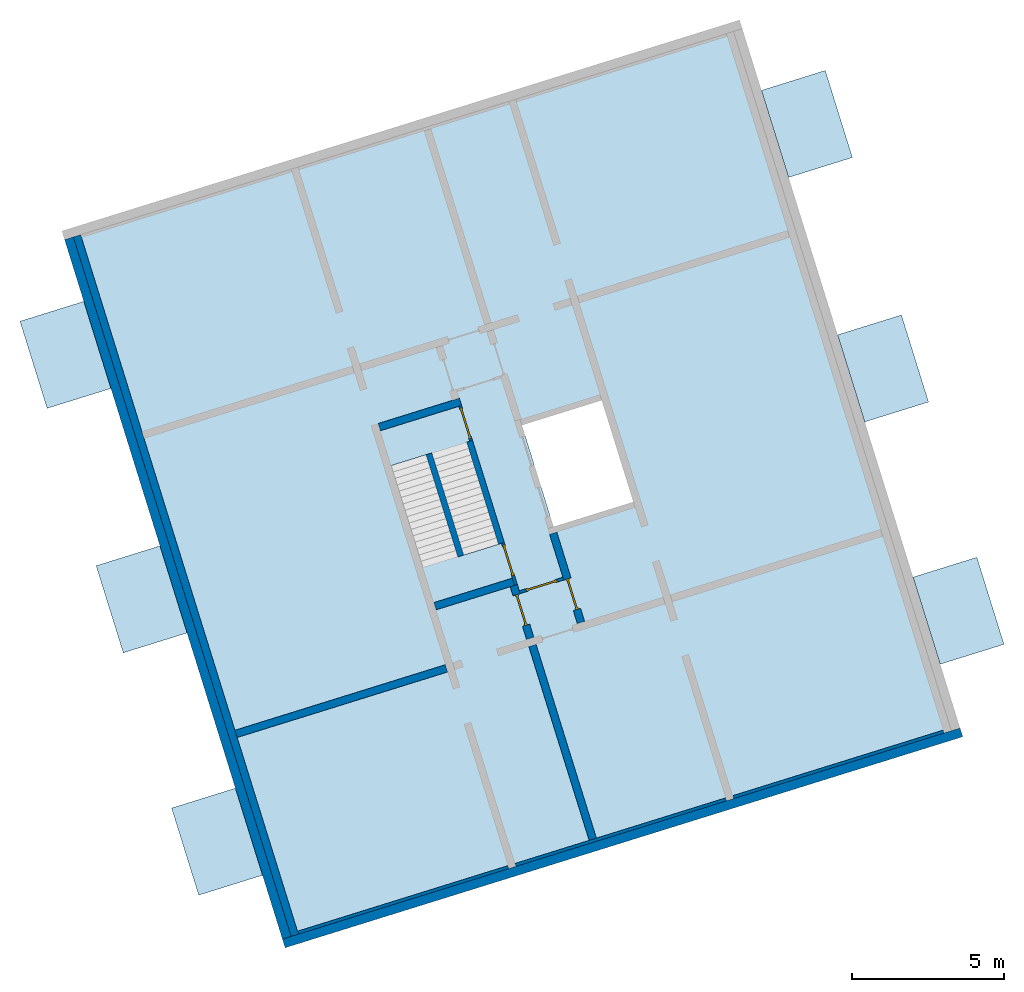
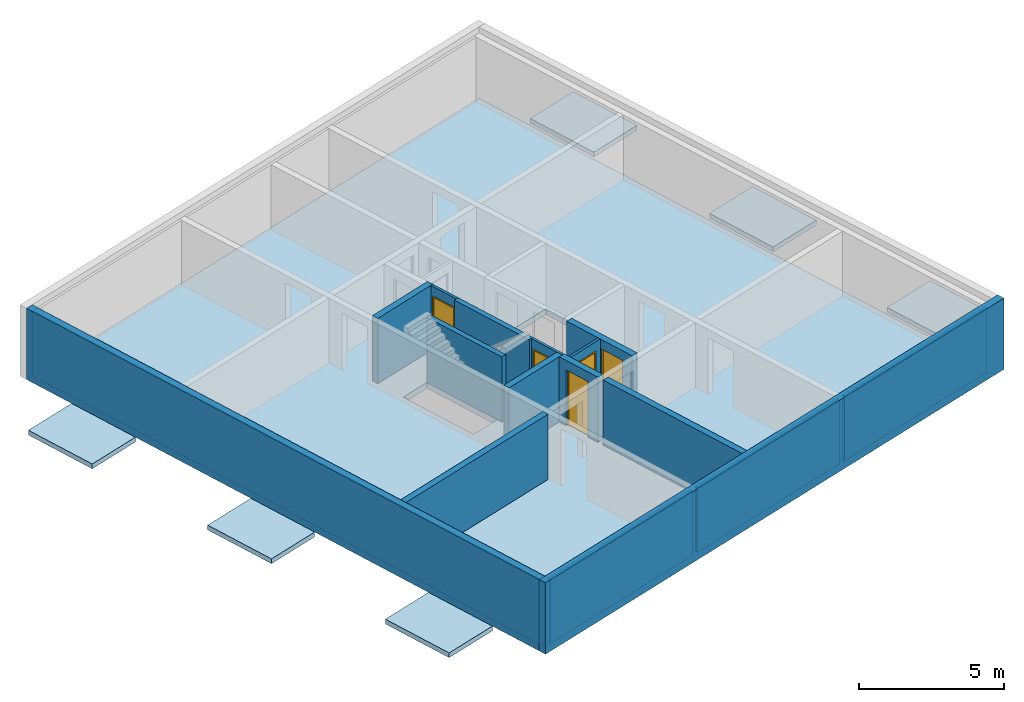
# One storey, part 1 of 4: 17 walls, 7 slabs, 5 doors, 7 openings.
"""IFC4 building model written with IfcOpenShell, lengths in metres."""

from ifc_helpers import new_model, entity, si_unit, converted_unit, direction, frame, origin, place, context, subcontext, project, spatial, indexed_curve, outline, extrude, polygons, source, transform, mapped, material, constituent, constituent_set, type_object, type_shapes, element, fill, save


model = new_model("IFC4")

# Units and contexts
model_context = context("Model", 3, precision=1e-05, world=origin(), true_north=direction((6.12323399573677e-17, 1.0)))
body_context = subcontext(model_context, "Body", "Model", "MODEL_VIEW")
ifc_project = project(units=[si_unit("LENGTHUNIT", "METRE"), si_unit("AREAUNIT", "SQUARE_METRE"), si_unit("VOLUMEUNIT", "CUBIC_METRE"), converted_unit("PLANEANGLEUNIT", "DEGREE", entity("IfcPlaneAngleMeasure", 0.0174532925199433), si_unit("PLANEANGLEUNIT", "RADIAN"), dimensions=[0, 0, 0, 0, 0, 0, 0])], contexts=[model_context])

# Site, building, storey
site_placement = place(None, frame((13.1347999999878, 11.9886000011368, 0.0), z_axis=(0.0, 0.0, 1.0), x_axis=(0.954770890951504, 0.297342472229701, 0.0)))
site = spatial("IfcSite", under=ifc_project, at=site_placement, Name="Schiehaven", CompositionType="ELEMENT")
building_placement = place(site_placement, origin())
building = spatial("IfcBuilding", under=site, at=building_placement, Name="VORM huis", CompositionType="ELEMENT")
storey_placement = place(building_placement, frame((0.0, 0.0, 21.9)))
storey = spatial("IfcBuildingStorey", under=building, at=storey_placement, Name="07 zevende verdieping", CompositionType="ELEMENT", Elevation=21.9)

# Slab, openings
ifc_material_1 = material(Name="beton_gewapend_ihw", Category="Miscellaneous")
slab_type_1 = type_object("IfcSlabType", Name="Floor:28_FL_skelet_vloer 250mm", PredefinedType="FLOOR", material=ifc_material_1)
slab_1_placement = place(storey_placement, origin())
slab_1 = element("IfcSlab", 1, at=slab_1_placement, inside=storey, type_object=slab_type_1, material=ifc_material_1, Name="Constructieve vloer", ObjectType="Vloer", PredefinedType="FLOOR", context=body_context, shape_type="SweptSolid", body=[
    extrude(outline(indexed_curve([(-12.0499999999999, -11.375), (12.0499999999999, -11.375), (12.0499999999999, 11.375), (-12.0499999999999, 11.375), (-12.0499999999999, -11.375)], self_intersect=False), holes=[indexed_curve([(1.75000000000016, 3.62500000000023), (1.75000000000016, 0.875000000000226), (-1.74999999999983, 0.875000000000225), (-1.74999999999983, 3.62500000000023), (1.75000000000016, 3.62500000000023)], self_intersect=False), indexed_curve([(-1.53999999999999, -2.22499999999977), (-1.53999999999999, -1.02499999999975), (1.76000000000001, -1.02499999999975), (1.76000000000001, -2.22499999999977), (-1.53999999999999, -2.22499999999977)], self_intersect=False), indexed_curve([(1.54000000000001, -3.62499999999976), (-1.75999999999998, -3.62499999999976), (-1.75999999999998, -2.42499999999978), (1.54000000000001, -2.42499999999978), (1.54000000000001, -3.62499999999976)], self_intersect=False)]), frame((68.7500000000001, 17.0499999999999, -0.249999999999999), z_axis=(0.0, 0.0, 1.0), x_axis=(0.0, -1.0, 0.0)), (0.0, 0.0, 1.0), 0.249999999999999),
])
opening_1_placement = place(slab_1_placement, origin())
element("IfcOpeningElement", 2, at=opening_1_placement, cuts=slab_1, Name="Constructieve vloer", PredefinedType="OPENING", context=body_context, shape_type="SweptSolid", body=[
    extrude(outline(indexed_curve([(-1.75, -1.375), (1.75, -1.375), (1.75, 1.37500000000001), (-1.75, 1.37500000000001), (-1.75, -1.375)], self_intersect=False)), frame((71.0, 17.0499999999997, -0.249999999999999), z_axis=(0.0, 0.0, 1.0), x_axis=(0.0, 1.0, 0.0)), (0.0, 0.0, 1.0), 0.249999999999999),
])
opening_2_placement = place(slab_1_placement, origin())
element("IfcOpeningElement", 3, at=opening_2_placement, cuts=slab_1, Name="Constructieve vloer", PredefinedType="OPENING", context=body_context, shape_type="SweptSolid", body=[
    extrude(outline(indexed_curve([(-1.65, -0.600000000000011), (1.65000000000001, -0.600000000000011), (1.65000000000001, 0.600000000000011), (-1.65, 0.600000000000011), (-1.65, -0.600000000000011)], self_intersect=False)), frame((67.1250000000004, 16.9399999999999, -0.249999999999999), z_axis=(0.0, 0.0, 1.0), x_axis=(0.0, -1.0, 0.0)), (0.0, 0.0, 1.0), 0.249999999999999),
])

# Slabs
ifc_material_2 = material(Name="beton_gewapend_prefab-element", Category="Miscellaneous")
slab_type_2 = type_object("IfcSlabType", Name="Floor:23_FL_skelet_balkon 200mm", PredefinedType="FLOOR", material=ifc_material_2)
slab_2_placement = place(storey_placement, origin())
element("IfcSlab", 4, at=slab_2_placement, inside=storey, type_object=slab_type_2, material=ifc_material_2, Name="Balkonvloer", ObjectType="Vloer", PredefinedType="FLOOR", context=body_context, shape_type="SweptSolid", body=[
    extrude(outline(indexed_curve([(-1.5, -1.1), (1.5, -1.1), (1.5, 1.1), (-1.5, 1.1), (-1.5, -1.1)], self_intersect=False)), frame((55.9750000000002, 25.475, 0.0), z_axis=(0.0, 0.0, -1.0), x_axis=(0.0, 1.0, 0.0)), (0.0, 0.0, 1.0), 0.199999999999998),
])
slab_3_placement = place(storey_placement, origin())
element("IfcSlab", 5, at=slab_3_placement, inside=storey, type_object=slab_type_2, material=ifc_material_2, Name="Balkonvloer", ObjectType="Vloer", PredefinedType="FLOOR", context=body_context, shape_type="SweptSolid", body=[
    extrude(outline(indexed_curve([(-1.50000000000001, -1.1), (1.49999999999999, -1.1), (1.50000000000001, 1.10000000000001), (-1.49999999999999, 1.1), (-1.50000000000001, -1.1)], self_intersect=False)), frame((55.9750000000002, 8.70000000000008, 0.0), z_axis=(0.0, 0.0, -1.0), x_axis=(0.0, 1.0, 0.0)), (0.0, 0.0, 1.0), 0.199999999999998),
])
slab_4_placement = place(storey_placement, origin())
element("IfcSlab", 6, at=slab_4_placement, inside=storey, type_object=slab_type_2, material=ifc_material_2, Name="Balkonvloer", ObjectType="Vloer", PredefinedType="FLOOR", context=body_context, shape_type="SweptSolid", body=[
    extrude(outline(indexed_curve([(-1.50000000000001, -1.1), (1.49999999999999, -1.1), (1.50000000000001, 1.1), (-1.49999999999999, 1.10000000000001), (-1.50000000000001, -1.1)], self_intersect=False)), frame((55.9750000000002, 17.0499999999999, 0.0), z_axis=(0.0, 0.0, -1.0), x_axis=(0.0, 1.0, 0.0)), (0.0, 0.0, 1.0), 0.199999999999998),
])
slab_5_placement = place(storey_placement, origin())
element("IfcSlab", 7, at=slab_5_placement, inside=storey, type_object=slab_type_2, material=ifc_material_2, Name="Balkonvloer", ObjectType="Vloer", PredefinedType="FLOOR", context=body_context, shape_type="SweptSolid", body=[
    extrude(outline(indexed_curve([(-1.50000000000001, -1.1), (1.49999999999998, -1.1), (1.50000000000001, 1.1), (-1.49999999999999, 1.1), (-1.50000000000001, -1.1)], self_intersect=False)), frame((81.5250000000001, 25.475, 0.0), z_axis=(0.0, 0.0, -1.0), x_axis=(0.0, 1.0, 0.0)), (0.0, 0.0, 1.0), 0.199999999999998),
])
slab_6_placement = place(storey_placement, origin())
element("IfcSlab", 8, at=slab_6_placement, inside=storey, type_object=slab_type_2, material=ifc_material_2, Name="Balkonvloer", ObjectType="Vloer", PredefinedType="FLOOR", context=body_context, shape_type="SweptSolid", body=[
    extrude(outline(indexed_curve([(-1.50000000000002, -1.1), (1.49999999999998, -1.1), (1.50000000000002, 1.10000000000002), (-1.49999999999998, 1.10000000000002), (-1.50000000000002, -1.1)], self_intersect=False)), frame((81.5250000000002, 8.70000000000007, 0.0), z_axis=(0.0, 0.0, -1.0), x_axis=(0.0, 1.0, 0.0)), (0.0, 0.0, 1.0), 0.199999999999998),
])
slab_7_placement = place(storey_placement, origin())
element("IfcSlab", 9, at=slab_7_placement, inside=storey, type_object=slab_type_2, material=ifc_material_2, Name="Balkonvloer", ObjectType="Vloer", PredefinedType="FLOOR", context=body_context, shape_type="SweptSolid", body=[
    extrude(outline(indexed_curve([(-1.5, -1.09999999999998), (1.5, -1.09999999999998), (1.5, 1.1), (-1.5, 1.1), (-1.5, -1.09999999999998)], self_intersect=False)), frame((81.5250000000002, 17.05, 0.0), z_axis=(0.0, 0.0, -1.0), x_axis=(0.0, 1.0, 0.0)), (0.0, 0.0, 1.0), 0.199999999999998),
])

# Walls
wall_type_1 = type_object("IfcWallType", Name="Basic Wall:28_WA_skelet_wand 250mm_gen", PredefinedType="STANDARD")
wall_1_placement = place(storey_placement, frame((57.5000000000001, 5.0, 0.0), z_axis=(0.0, 0.0, 1.0), x_axis=(0.0, 1.0, 0.0)))
element("IfcWall", 10, at=wall_1_placement, inside=storey, type_object=wall_type_1, material=ifc_material_1, Name="Constructieve wand", ObjectType="Wand", PredefinedType="NOTDEFINED", context=body_context, shape_type="SweptSolid", body=[
    extrude(outline(indexed_curve([(24.1, 0.124999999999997), (1.84706995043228e-16, 0.124999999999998), (-1.84706995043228e-16, -0.124999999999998), (24.1, -0.124999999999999), (24.1, 0.124999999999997)], self_intersect=False)), origin(), (0.0, 0.0, 1.0), 2.75),
])
ifc_material_3 = material(Name="ntb_ntb_ntb", Category="Miscellaneous")
wall_type_2 = type_object("IfcWallType", Name="Basic Wall:21_WA_gevel_binnenspouwwand 100mm_gen", PredefinedType="STANDARD")
wall_2_placement = place(storey_placement, frame((79.8750000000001, 5.04999999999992, 0.0), z_axis=(0.0, 0.0, 1.0), x_axis=(-1.0, 0.0, 0.0)))
element("IfcWall", 11, at=wall_2_placement, inside=storey, type_object=wall_type_2, material=ifc_material_3, Name="Binnenspouwblad", ObjectType="Wand", PredefinedType="NOTDEFINED", context=body_context, shape_type="SweptSolid", body=[
    extrude(outline(indexed_curve([(7.24999999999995, 0.0500000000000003), (-5.72474684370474e-18, 0.0500000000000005), (5.72474684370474e-18, -0.0500000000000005), (7.24999999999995, -0.0500000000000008), (7.24999999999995, 0.0500000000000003)], self_intersect=False)), origin(), (0.0, 0.0, 1.0), 2.75),
])
wall_3_placement = place(storey_placement, frame((65.1250000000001, 5.0499999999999, 0.0)))
element("IfcWall", 12, at=wall_3_placement, inside=storey, type_object=wall_type_2, material=ifc_material_3, Name="Binnenspouwblad", ObjectType="Wand", PredefinedType="NOTDEFINED", context=body_context, shape_type="SweptSolid", body=[
    extrude(outline(indexed_curve([(7.24999999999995, 0.0500000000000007), (1.48468503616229e-16, 0.0500000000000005), (-1.48468503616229e-16, -0.0500000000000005), (7.24999999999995, -0.0500000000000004), (7.24999999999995, 0.0500000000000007)], self_intersect=False)), origin(), (0.0, 0.0, 1.0), 2.75),
])
wall_4_placement = place(storey_placement, frame((64.875, 5.0499999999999, 0.0), z_axis=(0.0, 0.0, 1.0), x_axis=(-1.0, 0.0, 0.0)))
element("IfcWall", 13, at=wall_4_placement, inside=storey, type_object=wall_type_2, material=ifc_material_3, Name="Binnenspouwblad", ObjectType="Wand", PredefinedType="NOTDEFINED", context=body_context, shape_type="SweptSolid", body=[
    extrude(outline(indexed_curve([(7.24999999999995, 0.0500000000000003), (-5.72474684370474e-18, 0.0500000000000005), (5.72474684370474e-18, -0.0500000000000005), (7.24999999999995, -0.0500000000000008), (7.24999999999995, 0.0500000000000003)], self_intersect=False)), origin(), (0.0, 0.0, 1.0), 2.75),
])
wall_type_3 = type_object("IfcWallType", Name="Basic Wall: 300mm_gen", PredefinedType="STANDARD")
wall_5_placement = place(storey_placement, frame((57.075, 4.84999999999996, 0.0)))
element("IfcWall", 14, at=wall_5_placement, inside=storey, type_object=wall_type_3, material=ifc_material_3, Name="Gevelwand", ObjectType="Wand", PredefinedType="NOTDEFINED", context=body_context, shape_type="SweptSolid", body=[
    extrude(outline(indexed_curve([(23.35, 0.150000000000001), (-2.29983128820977e-16, 0.150000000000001), (2.29983128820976e-16, -0.15), (23.35, -0.15), (23.35, 0.150000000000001)], self_intersect=False)), origin(), (0.0, 0.0, 1.0), 3.0),
])
wall_6_placement = place(storey_placement, frame((57.2250000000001, 29.0999999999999, 0.0), z_axis=(0.0, 0.0, 1.0), x_axis=(0.0, -1.0, 0.0)))
element("IfcWall", 15, at=wall_6_placement, inside=storey, type_object=wall_type_3, material=ifc_material_3, Name="Gevelwand", ObjectType="Wand", PredefinedType="NOTDEFINED", context=body_context, shape_type="SweptSolid", body=[
    extrude(outline(indexed_curve([(24.1, 0.149999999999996), (-2.43297068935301e-16, 0.150000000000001), (2.43297068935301e-16, -0.150000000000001), (24.1, -0.150000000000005), (24.1, 0.149999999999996)], self_intersect=False)), origin(), (0.0, 0.0, 1.0), 3.0),
])
wall_type_4 = type_object("IfcWallType", Name="Basic Wall:28_WA_skelet_wand 200mm_gen", PredefinedType="STANDARD")
wall_7_placement = place(storey_placement, frame((67.8250000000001, 15.2899999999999, 0.0), z_axis=(0.0, 0.0, 1.0), x_axis=(0.0, 1.0, 0.0)))
element("IfcWall", 16, at=wall_7_placement, inside=storey, type_object=wall_type_4, material=ifc_material_2, Name="Constructieve wand", ObjectType="Wand", PredefinedType="NOTDEFINED", context=body_context, shape_type="SweptSolid", body=[
    extrude(outline(indexed_curve([(3.52, 0.100000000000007), (1.31886131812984e-16, 0.100000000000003), (-1.31886131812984e-16, -0.100000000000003), (3.52, -0.0999999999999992), (3.52, 0.100000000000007)], self_intersect=False)), origin(), (0.0, 0.0, 1.0), 2.75),
])
wall_8_placement = place(storey_placement, frame((66.4250000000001, 15.2899999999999, 0.0), z_axis=(0.0, 0.0, 1.0), x_axis=(0.0, 1.0, 0.0)))
element("IfcWall", 17, at=wall_8_placement, inside=storey, type_object=wall_type_4, material=ifc_material_2, Name="Constructieve wand", ObjectType="Wand", PredefinedType="NOTDEFINED", context=body_context, shape_type="SweptSolid", body=[
    extrude(outline(indexed_curve([(3.52, 0.100000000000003), (2.54939214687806e-16, 0.100000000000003), (-2.54939214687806e-16, -0.100000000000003), (3.52, -0.100000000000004), (3.52, 0.100000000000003)], self_intersect=False)), origin(), (0.0, 0.0, 1.0), 2.75),
])
wall_type_5 = type_object("IfcWallType", Name="Basic Wall:22_WA_afbouw_binnenwand 250mm_gen", PredefinedType="STANDARD")
wall_9_placement = place(storey_placement, frame((65.1250000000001, 20.1349999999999, 0.0)))
element("IfcWall", 18, at=wall_9_placement, inside=storey, type_object=wall_type_5, material=ifc_material_3, Name="Binnenwand", ObjectType="Wand", PredefinedType="NOTDEFINED", context=body_context, shape_type="SweptSolid", body=[
    extrude(outline(indexed_curve([(2.8, 0.125000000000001), (2.00742282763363e-17, 0.125000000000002), (-2.00742282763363e-17, -0.125000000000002), (2.8, -0.125000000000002), (2.8, 0.125000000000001)], self_intersect=False)), origin(), (0.0, 0.0, 1.0), 2.75),
])
wall_10_placement = place(storey_placement, frame((64.8750000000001, 11.8999999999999, 0.0), z_axis=(0.0, 0.0, 1.0), x_axis=(-1.0, 0.0, 0.0)))
element("IfcWall", 19, at=wall_10_placement, inside=storey, type_object=wall_type_5, material=ifc_material_3, Name="Binnenwand", ObjectType="Wand", PredefinedType="NOTDEFINED", context=body_context, shape_type="SweptSolid", body=[
    extrude(outline(indexed_curve([(7.24999999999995, 0.125000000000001), (-2.8436708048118e-16, 0.125), (2.8436708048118e-16, -0.125), (7.24999999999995, -0.124999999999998), (7.24999999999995, 0.125000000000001)], self_intersect=False)), origin(), (0.0, 0.0, 1.0), 2.75),
])
wall_11_placement = place(storey_placement, frame((67.8, 11.7749999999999, 0.0), z_axis=(0.0, 0.0, 1.0), x_axis=(0.0, -1.0, 0.0)))
element("IfcWall", 20, at=wall_11_placement, inside=storey, type_object=wall_type_5, material=ifc_material_3, Name="Binnenwand", ObjectType="Wand", PredefinedType="NOTDEFINED", context=body_context, shape_type="SweptSolid", body=[
    extrude(outline(indexed_curve([(6.67500000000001, 0.124999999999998), (-1.7762946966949e-16, 0.124999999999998), (1.7762946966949e-16, -0.124999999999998), (6.67500000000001, -0.124999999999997), (6.67500000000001, 0.124999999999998)], self_intersect=False)), origin(), (0.0, 0.0, 1.0), 2.75),
])

# Wall, opening, door
wall_12_placement = place(storey_placement, frame((67.8000000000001, 13.8399999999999, 0.0), z_axis=(0.0, 0.0, 1.0), x_axis=(0.0, -1.0, 0.0)))
wall_12 = element("IfcWall", 21, at=wall_12_placement, inside=storey, type_object=wall_type_5, material=ifc_material_3, Name="Binnenwand", ObjectType="Wand", PredefinedType="NOTDEFINED", context=body_context, shape_type="Tessellation", body=[
    polygons([(0.0, -0.125000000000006, 0.0), (0.315000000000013, -0.125000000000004, 0.0), (0.315000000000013, -0.125000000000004, 2.34999999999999), (1.36500000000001, -0.125000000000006, 2.34999999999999), (1.36500000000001, -0.125000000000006, 0.0), (1.81499999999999, -0.125000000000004, 0.0), (1.81499999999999, -0.125000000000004, 2.75), (0.0, -0.125000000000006, 2.75), (0.315000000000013, 0.124999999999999, 2.34999999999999), (0.315000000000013, 0.124999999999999, 0.0), (0.215000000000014, 0.124999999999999, 0.0), (-2.16573425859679e-15, 0.124999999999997, 0.0), (-2.16573425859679e-15, 0.124999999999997, 2.75), (0.215000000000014, 0.124999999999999, 2.75), (0.315000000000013, 0.124999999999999, 2.75), (1.81499999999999, 0.125, 2.75), (1.81499999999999, 0.125, 0.0), (1.36500000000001, 0.124999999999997, 0.0), (1.36500000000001, 0.124999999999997, 2.34999999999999), (0.0, 0.0250000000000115, 0.0), (0.0, 0.0250000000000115, 2.75)], [[[1, 2, 3, 4, 5, 6, 7, 8]], [[9, 10, 11, 12, 13, 14, 15, 16, 17, 18, 19]], [[12, 11, 10, 2, 1, 20]], [[7, 6, 17, 16]], [[8, 7, 16, 15, 14, 13, 21]], [[5, 4, 19, 18]], [[3, 2, 10, 9]], [[4, 3, 9, 19]], [[1, 8, 21, 13, 12, 20]], [[18, 17, 6, 5]]], closed=True),
])
opening_3_placement = place(wall_12_placement, frame((0.315000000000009, -0.125000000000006, 0.0)))
opening_3 = element("IfcOpeningElement", 22, at=opening_3_placement, cuts=wall_12, Name="Woningtoegangsdeur", PredefinedType="OPENING", context=body_context, shape_type="SweptSolid", body=[
    extrude(outline(indexed_curve([(2.34999999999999, 1.05), (0.0, 1.05), (0.0, 1.35358391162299e-15), (2.34999999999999, 1.35358391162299e-15), (2.34999999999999, 1.05)], self_intersect=False)), frame((0.0, 0.0, 0.0), z_axis=(0.0, 1.0, 0.0), x_axis=(0.0, 0.0, 1.0)), (0.0, 0.0, 1.0), 0.25),
])
ifc_material_4 = material(Name="PD_a_binnenwandopeningen", Category="Miscellaneous")
ifc_constituent_1 = constituent(ifc_material_4, Name="PD_a_binnenwandopeningen", Category="Miscellaneous")
ifc_material_5 = material(Name="metaal_aluminium_ntb", Category="Miscellaneous")
ifc_constituent_2 = constituent(ifc_material_5, Name="metaal_aluminium_ntb", Category="Miscellaneous")
ifc_constituent_set_1 = constituent_set(constituents=[ifc_constituent_1, ifc_constituent_2])
ifc_constituent_3 = constituent(ifc_material_4, Name="PD_a_binnenwandopeningen", Category="Miscellaneous")
ifc_constituent_4 = constituent(ifc_material_5, Name="Panel", Category="Miscellaneous")
ifc_constituent_set_2 = constituent_set(constituents=[ifc_constituent_3, ifc_constituent_4])
door_type_1 = type_object("IfcDoorType", Name="32_DO_binnendeur enkel:woningtoegangsdeur", OperationType="REVOLVING", PredefinedType="DOOR", material=ifc_constituent_set_2)
shared_shape_1 = source(origin(), body_context, "Body", "SweptSolid", [
    extrude(outline(indexed_curve([(-1.16249999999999, -0.525000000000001), (1.18749999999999, -0.525), (1.18749999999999, 0.525000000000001), (-1.16249999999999, 0.525000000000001), (-1.16249999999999, 0.475), (1.13749999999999, 0.475), (1.13749999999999, -0.475), (-1.16249999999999, -0.475), (-1.16249999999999, -0.525000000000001)], self_intersect=False)), frame((0.525000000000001, 0.0749999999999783, 1.16249999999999), z_axis=(0.0, 1.0, 0.0), x_axis=(0.0, 0.0, 1.0)), (0.0, 0.0, 1.0), 0.1),
    extrude(outline(indexed_curve([(-0.025, -0.475), (0.025, -0.475), (0.025, 0.475), (-0.025, 0.475), (-0.025, -0.475)], self_intersect=False)), frame((0.525000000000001, 0.12499999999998, 0.0), z_axis=(0.0, 0.0, 1.0), x_axis=(0.0, 1.0, 0.0)), (0.0, 0.0, 1.0), 2.29999999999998),
])
type_shapes(door_type_1, [shared_shape_1])
door_1_placement = place(opening_3_placement, origin())
door_1 = element("IfcDoor", 23, at=door_1_placement, inside=storey, type_object=door_type_1, material=ifc_constituent_set_1, Name="Woningtoegangsdeur", ObjectType="Deur", OperationType="REVOLVING", OverallHeight=2.34999999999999, OverallWidth=1.05, PredefinedType="DOOR", context=body_context, shape_type="MappedRepresentation", body=[
    mapped(shared_shape_1, transform((0.0, 0.0, 0.0), scale=1.0)),
])
fill(opening_3, door_1)

wall_13_placement = place(storey_placement, frame((69.5500000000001, 15.0999999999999, 0.0), z_axis=(0.0, 0.0, 1.0), x_axis=(0.0, -1.0, 0.0)))
wall_13 = element("IfcWall", 24, at=wall_13_placement, inside=storey, type_object=wall_type_5, material=ifc_material_3, Name="Binnenwand", ObjectType="Wand", PredefinedType="NOTDEFINED", context=body_context, shape_type="Tessellation", body=[
    polygons([(2.62500000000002, -0.125000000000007, 2.34999999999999), (2.62500000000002, -0.125000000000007, 0.0), (3.07499999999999, -0.125000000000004, 0.0), (3.07499999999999, -0.125000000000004, 2.75), (1.575, -0.125000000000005, 2.75), (1.475, -0.125000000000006, 2.75), (0.0, -0.125000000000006, 2.75), (0.0, -0.125000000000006, 0.0), (1.475, -0.125000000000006, 0.0), (1.57500000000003, -0.125000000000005, 0.0), (1.57500000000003, -0.125000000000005, 2.34999999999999), (3.075, 0.124999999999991, 0.0), (2.62500000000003, 0.124999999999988, 0.0), (2.62500000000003, 0.124999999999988, 2.34999999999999), (1.57500000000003, 0.124999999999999, 2.34999999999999), (1.57500000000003, 0.124999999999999, 0.0), (2.16573425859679e-15, 0.124999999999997, 0.0), (2.16573425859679e-15, 0.124999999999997, 2.75), (3.075, 0.124999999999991, 2.75)], [[[1, 2, 3, 4, 5, 6, 7, 8, 9, 10, 11]], [[12, 13, 14, 15, 16, 17, 18, 19]], [[10, 9, 8, 17, 16]], [[4, 3, 12, 19]], [[7, 6, 5, 4, 19, 18]], [[8, 7, 18, 17]], [[16, 15, 11, 10]], [[14, 13, 2, 1]], [[15, 14, 1, 11]], [[3, 2, 13, 12]]], closed=True),
])
opening_4_placement = place(wall_13_placement, frame((2.62500000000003, 0.124999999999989, 0.0)))
opening_4 = element("IfcOpeningElement", 25, at=opening_4_placement, cuts=wall_13, Name="Woningtoegangsdeur", PredefinedType="OPENING", context=body_context, shape_type="SweptSolid", body=[
    extrude(outline(indexed_curve([(2.34999999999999, 1.05), (0.0, 1.05), (0.0, 1.08286712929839e-15), (2.34999999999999, 1.08286712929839e-15), (2.34999999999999, 1.05)], self_intersect=False)), frame((0.0, 0.0, 0.0), z_axis=(0.0, -1.0, 0.0), x_axis=(0.0, 0.0, 1.0)), (0.0, 0.0, 1.0), 0.25),
])
ifc_constituent_5 = constituent(ifc_material_4, Name="PD_a_binnenwandopeningen", Category="Miscellaneous")
ifc_constituent_6 = constituent(ifc_material_5, Name="metaal_aluminium_ntb", Category="Miscellaneous")
ifc_constituent_set_3 = constituent_set(constituents=[ifc_constituent_5, ifc_constituent_6])
door_2_placement = place(opening_4_placement, frame((0.0, 0.0, 0.0), z_axis=(0.0, 0.0, 1.0), x_axis=(-1.0, 0.0, 0.0)))
door_2 = element("IfcDoor", 26, at=door_2_placement, inside=storey, type_object=door_type_1, material=ifc_constituent_set_3, Name="Woningtoegangsdeur", ObjectType="Deur", OperationType="REVOLVING", OverallHeight=2.34999999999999, OverallWidth=1.05, PredefinedType="DOOR", context=body_context, shape_type="MappedRepresentation", body=[
    mapped(shared_shape_1, transform((0.0, 0.0, 0.0), scale=1.0)),
])
fill(opening_4, door_2)

# Wall
wall_14_placement = place(storey_placement, frame((65.1250000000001, 13.9649999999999, 0.0)))
element("IfcWall", 27, at=wall_14_placement, inside=storey, type_object=wall_type_5, material=ifc_material_3, Name="Binnenwand", ObjectType="Wand", PredefinedType="NOTDEFINED", context=body_context, shape_type="SweptSolid", body=[
    extrude(outline(indexed_curve([(2.70000000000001, 0.125), (-1.06625112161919e-16, 0.125), (1.06625112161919e-16, -0.125), (2.70000000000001, -0.125), (2.70000000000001, 0.125)], self_intersect=False)), origin(), (0.0, 0.0, 1.0), 2.75),
])

# Wall, opening, door
wall_type_6 = type_object("IfcWallType", Name="Basic Wall:22_WA_afbouw_binnenwand 100mm_gen", PredefinedType="STANDARD")
wall_15_placement = place(storey_placement, frame((67.8750000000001, 13.8399999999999, 0.0), z_axis=(0.0, 0.0, 1.0), x_axis=(0.0, 1.0, 0.0)))
wall_15 = element("IfcWall", 28, at=wall_15_placement, inside=storey, type_object=wall_type_6, material=ifc_material_3, Name="Binnenwand", ObjectType="Wand", PredefinedType="NOTDEFINED", context=body_context, shape_type="Tessellation", body=[
    polygons([(1.44999999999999, -0.050000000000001, 0.0), (1.44999999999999, -0.050000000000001, 2.75), (0.0, -0.0499999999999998, 2.75), (0.0, -0.0499999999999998, 0.0), (0.324999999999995, -0.0500000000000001, 0.0), (0.324999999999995, -0.0500000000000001, 2.34999999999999), (1.375, -0.0500000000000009, 2.34999999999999), (1.375, -0.0500000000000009, 0.0), (1.44999999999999, 0.0499999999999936, 2.75), (1.44999999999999, 0.0499999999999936, 0.0), (1.375, 0.0499999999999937, 0.0), (1.375, 0.0499999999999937, 2.34999999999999), (0.324999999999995, 0.0499999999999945, 2.34999999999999), (0.324999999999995, 0.0499999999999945, 0.0), (0.249999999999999, 0.0499999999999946, 0.0), (0.0, 0.0499999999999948, 0.0), (0.0, 0.0499999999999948, 2.75), (0.249999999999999, 0.0499999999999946, 2.75)], [[[1, 2, 3, 4, 5, 6, 7, 8]], [[9, 10, 11, 12, 13, 14, 15, 16, 17, 18]], [[4, 16, 15, 14, 5]], [[2, 1, 10, 9]], [[3, 2, 9, 18, 17]], [[13, 6, 5, 14]], [[7, 12, 11, 8]], [[6, 13, 12, 7]], [[4, 3, 17, 16]], [[10, 1, 8, 11]]], closed=True),
])
opening_5_placement = place(wall_15_placement, frame((0.324999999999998, -0.0500000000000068, 0.0)))
opening_5 = element("IfcOpeningElement", 29, at=opening_5_placement, cuts=wall_15, Name="Vluchtdeur", PredefinedType="OPENING", context=body_context, shape_type="SweptSolid", body=[
    extrude(outline(indexed_curve([(2.34999999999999, 1.35358391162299e-15), (2.34999999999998, 1.05), (0.0, 1.05), (2.16573425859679e-15, 1.35358391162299e-15), (2.34999999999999, 1.35358391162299e-15)], self_intersect=False)), frame((0.0, 0.0, 0.0), z_axis=(0.0, 1.0, 0.0), x_axis=(0.0, 0.0, 1.0)), (0.0, 0.0, 1.0), 0.1),
])
ifc_constituent_7 = constituent(ifc_material_4, Name="PD_a_binnenwandopeningen", Category="Miscellaneous")
ifc_constituent_8 = constituent(ifc_material_5, Name="metaal_aluminium_ntb", Category="Miscellaneous")
ifc_constituent_set_4 = constituent_set(constituents=[ifc_constituent_7, ifc_constituent_8])
ifc_constituent_9 = constituent(ifc_material_4, Name="PD_a_binnenwandopeningen", Category="Miscellaneous")
ifc_constituent_10 = constituent(ifc_material_5, Name="Panel", Category="Miscellaneous")
ifc_constituent_set_5 = constituent_set(constituents=[ifc_constituent_9, ifc_constituent_10])
door_type_2 = type_object("IfcDoorType", Name="32_DO_binnendeur enkel:binnendeur zelfsluitend 30min", OperationType="NOTDEFINED", PredefinedType="DOOR", material=ifc_constituent_set_5)
shared_shape_2 = source(origin(), body_context, "Body", "SweptSolid", [
    extrude(outline(indexed_curve([(0.475, -1.16249999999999), (0.525, -1.16249999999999), (0.525, 1.18749999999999), (-0.525, 1.18749999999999), (-0.525, -1.16249999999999), (-0.475, -1.16249999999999), (-0.475, 1.13749999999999), (0.475, 1.13749999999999), (0.475, -1.16249999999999)], self_intersect=False)), frame((0.525000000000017, 0.100000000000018, 1.16249999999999), z_axis=(0.0, -1.0, 0.0), x_axis=(1.0, 0.0, 0.0)), (0.0, 0.0, 1.0), 0.1),
    extrude(outline(indexed_curve([(-0.475, -0.025), (0.475, -0.025), (0.475, 0.025), (-0.475, 0.025), (-0.475, -0.025)], self_intersect=False)), frame((0.525000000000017, 0.0499999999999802, 0.0)), (0.0, 0.0, 1.0), 2.29999999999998),
])
type_shapes(door_type_2, [shared_shape_2])
door_3_placement = place(opening_5_placement, origin())
door_3 = element("IfcDoor", 30, at=door_3_placement, inside=storey, type_object=door_type_2, material=ifc_constituent_set_4, Name="Vluchtdeur", ObjectType="Deur", OperationType="NOTDEFINED", OverallHeight=2.34999999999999, OverallWidth=1.05, PredefinedType="DOOR", context=body_context, shape_type="MappedRepresentation", body=[
    mapped(shared_shape_2, transform((0.0, 0.0, 0.0), scale=1.0)),
])
fill(opening_5, door_3)

wall_16_placement = place(storey_placement, frame((67.8750000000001, 20.0099999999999, 0.0), z_axis=(0.0, 0.0, 1.0), x_axis=(0.0, -1.0, 0.0)))
wall_16 = element("IfcWall", 31, at=wall_16_placement, inside=storey, type_object=wall_type_6, material=ifc_material_3, Name="Binnenwand", ObjectType="Wand", PredefinedType="NOTDEFINED", context=body_context, shape_type="Tessellation", body=[
    polygons([(1.2, -0.0500000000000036, 0.0), (1.2, -0.0500000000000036, 2.75), (0.0, -0.0500000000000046, 2.75), (0.0, -0.0500000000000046, 0.0), (0.0750000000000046, -0.0500000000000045, 0.0), (0.0750000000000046, -0.0500000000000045, 2.34999999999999), (1.125, -0.0500000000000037, 2.34999999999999), (1.125, -0.0500000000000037, 0.0), (1.2, 0.049999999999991, 2.75), (1.2, 0.049999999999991, 0.0), (1.125, 0.0499999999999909, 0.0), (1.125, 0.0499999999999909, 2.34999999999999), (0.0750000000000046, 0.0499999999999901, 2.34999999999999), (0.0750000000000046, 0.0499999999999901, 0.0), (0.0, 0.04999999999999, 0.0), (0.0, 0.04999999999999, 2.75)], [[[1, 2, 3, 4, 5, 6, 7, 8]], [[9, 10, 11, 12, 13, 14, 15, 16]], [[4, 15, 14, 5]], [[2, 1, 10, 9]], [[3, 2, 9, 16]], [[4, 3, 16, 15]], [[13, 6, 5, 14]], [[6, 13, 12, 7]], [[7, 12, 11, 8]], [[10, 1, 8, 11]]], closed=True),
])
opening_6_placement = place(wall_16_placement, frame((1.12500000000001, 0.0499999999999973, 0.0)))
opening_6 = element("IfcOpeningElement", 32, at=opening_6_placement, cuts=wall_16, Name="Vluchtdeur", PredefinedType="OPENING", context=body_context, shape_type="SweptSolid", body=[
    extrude(outline(indexed_curve([(2.34999999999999, 0.0), (2.34999999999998, 1.05), (0.0, 1.05), (2.16573425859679e-15, 0.0), (2.34999999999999, 0.0)], self_intersect=False)), frame((0.0, 0.0, 0.0), z_axis=(0.0, -1.0, 0.0), x_axis=(0.0, 0.0, 1.0)), (0.0, 0.0, 1.0), 0.1),
])
ifc_constituent_11 = constituent(ifc_material_4, Name="PD_a_binnenwandopeningen", Category="Miscellaneous")
ifc_constituent_12 = constituent(ifc_material_5, Name="metaal_aluminium_ntb", Category="Miscellaneous")
ifc_constituent_set_6 = constituent_set(constituents=[ifc_constituent_11, ifc_constituent_12])
door_4_placement = place(opening_6_placement, frame((0.0, 0.0, 0.0), z_axis=(0.0, 0.0, 1.0), x_axis=(-1.0, 0.0, 0.0)))
door_4 = element("IfcDoor", 33, at=door_4_placement, inside=storey, type_object=door_type_2, material=ifc_constituent_set_6, Name="Vluchtdeur", ObjectType="Deur", OperationType="NOTDEFINED", OverallHeight=2.34999999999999, OverallWidth=1.05, PredefinedType="DOOR", context=body_context, shape_type="MappedRepresentation", body=[
    mapped(shared_shape_2, transform((0.0, 0.0, 0.0), scale=1.0)),
])
fill(opening_6, door_4)

wall_17_placement = place(storey_placement, frame((67.9250000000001, 13.5749999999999, 0.0)))
wall_17 = element("IfcWall", 34, at=wall_17_placement, inside=storey, type_object=wall_type_6, material=ifc_material_3, Name="Binnenwand", ObjectType="Wand", PredefinedType="NOTDEFINED", context=body_context, shape_type="Tessellation", body=[
    polygons([(1.5, -0.0499999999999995, 2.75), (-1.73931956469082e-15, -0.0499999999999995, 2.75), (-1.73931956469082e-15, -0.0499999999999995, 2.34999999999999), (-1.73931956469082e-15, -0.0499999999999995, 0.0), (0.224999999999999, -0.0499999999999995, 0.0), (0.224999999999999, -0.0499999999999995, 2.34999999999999), (1.275, -0.0499999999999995, 2.34999999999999), (1.275, -0.0499999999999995, 0.0), (1.5, -0.0499999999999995, 0.0), (1.5, -0.0499999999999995, 2.34999999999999), (-1.30382056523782e-15, 0.0499999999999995, 2.75), (1.5, 0.0500000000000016, 2.75), (1.5, 0.0500000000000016, 0.0), (1.275, 0.0499999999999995, 0.0), (1.275, 0.0499999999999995, 2.34999999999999), (0.225, 0.0499999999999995, 2.34999999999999), (0.225, 0.0499999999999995, 0.0), (-1.30382056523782e-15, 0.0499999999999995, 0.0)], [[[1, 2, 3, 4, 5, 6, 7, 8, 9, 10]], [[11, 12, 13, 14, 15, 16, 17, 18]], [[4, 18, 17, 5]], [[2, 1, 12, 11]], [[16, 6, 5, 17]], [[6, 16, 15, 7]], [[7, 15, 14, 8]], [[4, 3, 2, 11, 18]], [[1, 10, 9, 13, 12]], [[13, 9, 8, 14]]], closed=True),
])
opening_7_placement = place(wall_17_placement, frame((0.225000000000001, -0.0499999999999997, 0.0)))
opening_7 = element("IfcOpeningElement", 35, at=opening_7_placement, cuts=wall_17, Name="Vluchtdeur", PredefinedType="OPENING", context=body_context, shape_type="SweptSolid", body=[
    extrude(outline(indexed_curve([(2.34999999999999, 1.05), (0.0, 1.05), (0.0, 1.06844054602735e-30), (2.34999999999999, 1.06844054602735e-30), (2.34999999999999, 1.05)], self_intersect=False)), frame((0.0, 0.0, 0.0), z_axis=(0.0, 1.0, 0.0), x_axis=(0.0, 0.0, 1.0)), (0.0, 0.0, 1.0), 0.1),
])
ifc_constituent_13 = constituent(ifc_material_4, Name="PD_a_binnenwandopeningen", Category="Miscellaneous")
ifc_constituent_14 = constituent(ifc_material_5, Name="metaal_aluminium_ntb", Category="Miscellaneous")
ifc_constituent_set_7 = constituent_set(constituents=[ifc_constituent_13, ifc_constituent_14])
ifc_constituent_15 = constituent(ifc_material_4, Name="PD_a_binnenwandopeningen", Category="Miscellaneous")
ifc_constituent_16 = constituent(ifc_material_5, Name="Panel", Category="Miscellaneous")
ifc_constituent_set_8 = constituent_set(constituents=[ifc_constituent_15, ifc_constituent_16])
door_type_3 = type_object("IfcDoorType", Name="32_DO_binnendeur enkel:binnendeur zelfsluitend 30min", OperationType="NOTDEFINED", PredefinedType="DOOR", material=ifc_constituent_set_8)
shared_shape_3 = source(origin(), body_context, "Body", "SweptSolid", [
    extrude(outline(indexed_curve([(-1.16249999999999, -0.525000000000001), (1.18749999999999, -0.525), (1.18749999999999, 0.525), (-1.16249999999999, 0.525), (-1.16249999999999, 0.475), (1.13749999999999, 0.475), (1.13749999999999, -0.475), (-1.16249999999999, -0.475), (-1.16249999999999, -0.525000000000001)], self_intersect=False)), frame((0.525000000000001, 0.0, 1.16249999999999), z_axis=(0.0, 1.0, 0.0), x_axis=(0.0, 0.0, 1.0)), (0.0, 0.0, 1.0), 0.1),
    extrude(outline(indexed_curve([(-0.025, -0.475), (0.025, -0.475), (0.025, 0.475), (-0.025, 0.475), (-0.025, -0.475)], self_intersect=False)), frame((0.525000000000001, 0.0499999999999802, 0.0), z_axis=(0.0, 0.0, 1.0), x_axis=(0.0, 1.0, 0.0)), (0.0, 0.0, 1.0), 2.29999999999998),
])
type_shapes(door_type_3, [shared_shape_3])
door_5_placement = place(opening_7_placement, origin())
door_5 = element("IfcDoor", 36, at=door_5_placement, inside=storey, type_object=door_type_3, material=ifc_constituent_set_7, Name="Vluchtdeur", ObjectType="Deur", OperationType="NOTDEFINED", OverallHeight=2.34999999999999, OverallWidth=1.05, PredefinedType="DOOR", context=body_context, shape_type="MappedRepresentation", body=[
    mapped(shared_shape_3, transform((0.0, 0.0, 0.0), scale=1.0)),
])
fill(opening_7, door_5)

save(model, "model.ifc")
